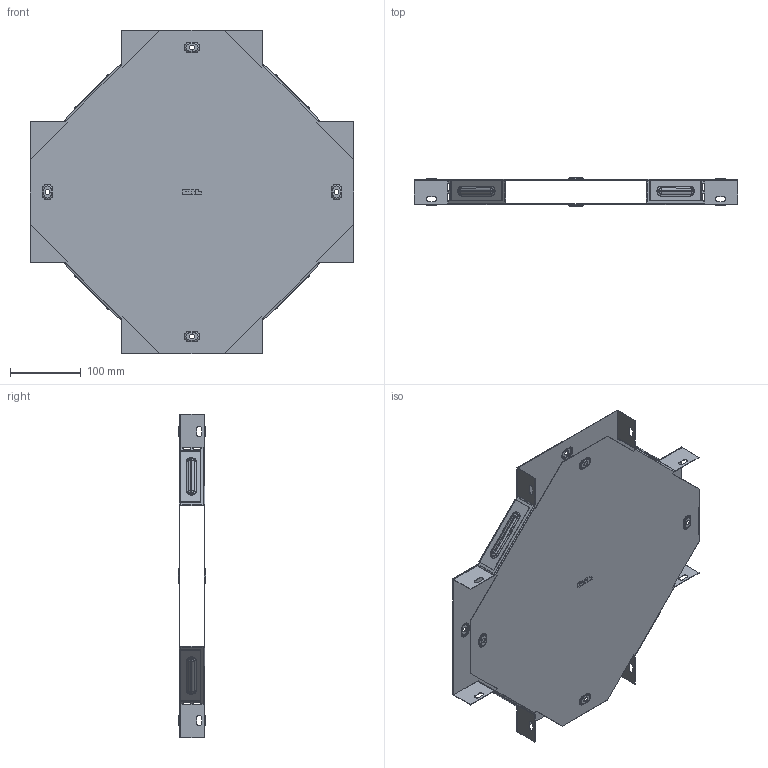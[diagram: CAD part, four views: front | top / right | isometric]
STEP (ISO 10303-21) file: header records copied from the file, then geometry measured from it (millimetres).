
FILE_DESCRIPTION (( 'STEP AP214' ), '1' );
FILE_NAME ('x3520008_捘.STEP', '2019-06-10T07:14:16', ( '砐錪賧瘔蠈錪 Windows' ), ( '' ), 'SwSTEP 2.0', 'SolidWorks 2018', '' );
FILE_SCHEMA (( 'AUTOMOTIVE_DESIGN' ));
Length unit declared in the file: millimetre
Products named in the file (1): x3520008_捘
Bounding box: 455.01 x 38.8 x 455.01 mm (x, y, z)
Volume: 269076.9 mm3; surface area: 676924.6 mm2
Topology: 2 solids, 2 shells, 764 faces, 2100 edges, 1352 vertices
Faces by surface type: plane 374, cylinder 244, torus 128, bspline 18
Entity records: 25235 total; most frequent: CARTESIAN_POINT 5175, DIRECTION 4238, ORIENTED_EDGE 4200, EDGE_CURVE 2100, AXIS2_PLACEMENT_3D 1427, VECTOR 1384, LINE 1384, VERTEX_POINT 1352
